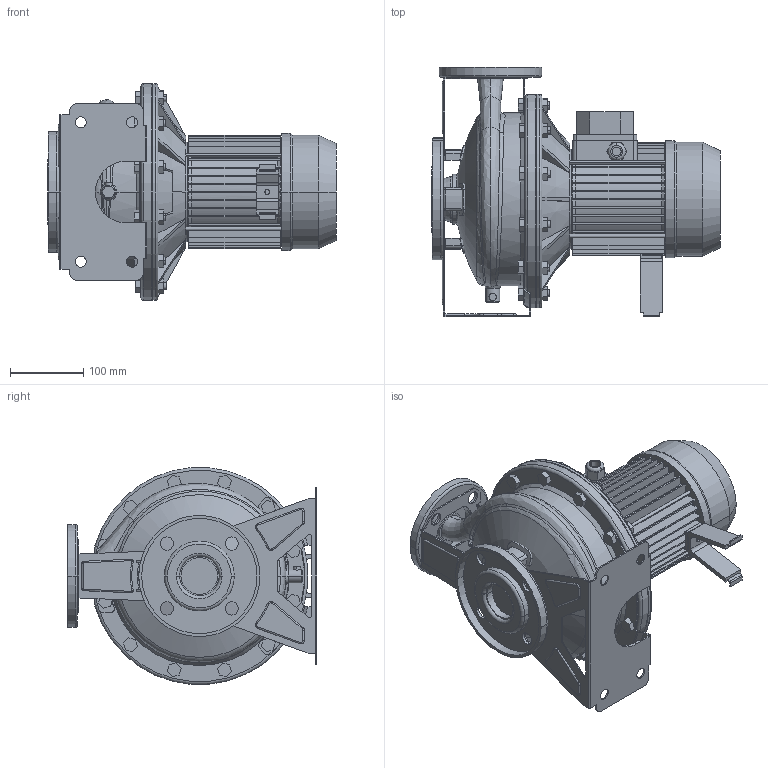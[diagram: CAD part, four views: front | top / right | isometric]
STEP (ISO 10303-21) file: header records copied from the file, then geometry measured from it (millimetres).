
FILE_DESCRIPTION((''),'2;1');
FILE_NAME('3M4_32-200_0_55_ASM','2016-09-16T',('rosa'),('"Ebara Pumps Europe +39.444.706811"'),'PRO/ENGINEER BY PARAMETRIC TECHNOLOGY CORPORATION, 2012130','PRO/ENGINEER BY PARAMETRIC TECHNOLOGY CORPORATION, 2012130','');
FILE_SCHEMA(('AUTOMOTIVE_DESIGN { 1 0 10303 214 1 1 1 1 }'));
Length unit declared in the file: millimetre
Products named in the file (12): CORPO_32-200_AF0; ASP_32-200; FLANGIA_DIN_50; MAND_32-200; FLANGIA_DIN_32; BASE_3M_32-200; CORPO_SALDATO_32-200_ASM; SUPPORTO_3M_230_80; MEC_80; SOSTEGNO_72006; 72015; 3M4_32-200_0_55_ASM
Assembly tree (11 placements, depth 3):
  3M4_32-200_0_55_ASM
    CORPO_SALDATO_32-200_ASM
      CORPO_32-200_AF0
      ASP_32-200
      FLANGIA_DIN_50
      MAND_32-200
      FLANGIA_DIN_32
      BASE_3M_32-200
    SUPPORTO_3M_230_80
    MEC_80
    SOSTEGNO_72006
    72015
Bounding box: 393 x 340 x 295.13 mm (x, y, z)
Volume: 8731406.9 mm3; surface area: 1033586.7 mm2
Topology: 13 solids, 13 shells, 1172 faces, 2958 edges, 1887 vertices
Faces by surface type: plane 621, cylinder 340, cone 92, torus 68, bspline 45, sphere 6
Entity records: 49819 total; most frequent: CARTESIAN_POINT 10646, DIRECTION 6040, ORIENTED_EDGE 5916, EDGE_CURVE 2958, PRESENTATION_STYLE_ASSIGNMENT 2886, STYLED_ITEM 2886, CURVE_STYLE 2874, AXIS2_PLACEMENT_3D 2194
